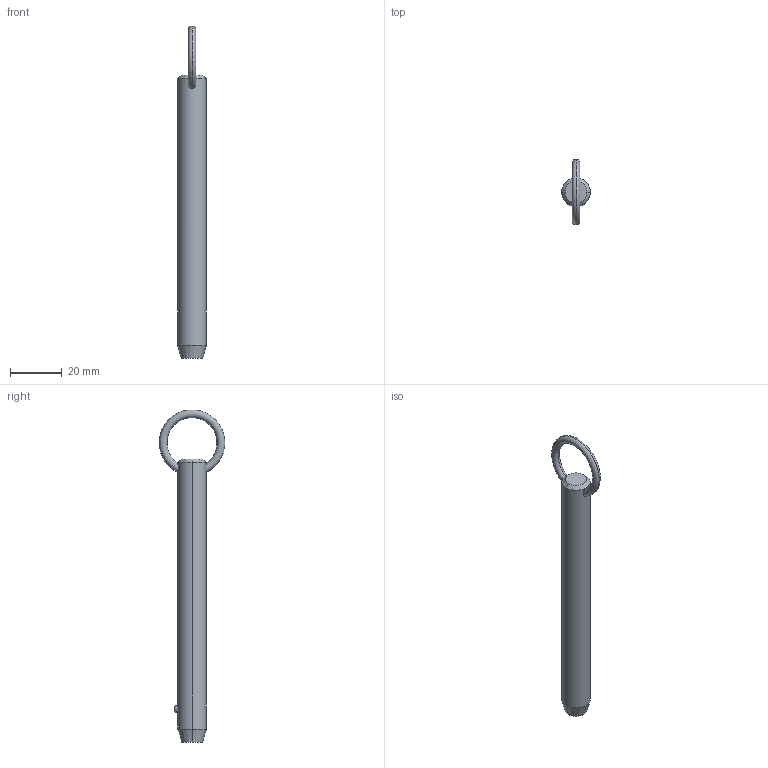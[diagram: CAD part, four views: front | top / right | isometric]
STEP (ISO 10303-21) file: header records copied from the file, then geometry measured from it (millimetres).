
FILE_DESCRIPTION (( 'STEP AP203' ), '1' );
FILE_NAME ('P1250.050-350.step', '2019-07-29T20:34:55', ( '' ), ( '' ), 'SwSTEP 2.0', 'SolidWorks 2017', '' );
FILE_SCHEMA (( 'CONFIG_CONTROL_DESIGN' ));
Length unit declared in the file: millimetre
Products named in the file (1): P1250.050-350
Bounding box: 11.1 x 25.32 x 128.45 mm (x, y, z)
Volume: 10878.9 mm3; surface area: 4471.1 mm2
Topology: 1 solids, 1 shells, 12 faces, 28 edges, 17 vertices
Faces by surface type: cone 4, torus 2, sphere 2, cylinder 2, plane 2
Entity records: 523 total; most frequent: CARTESIAN_POINT 190, DIRECTION 56, ORIENTED_EDGE 48, AXIS2_PLACEMENT_3D 25, EDGE_CURVE 24, EDGE_LOOP 15, VERTEX_POINT 15, CIRCLE 12
